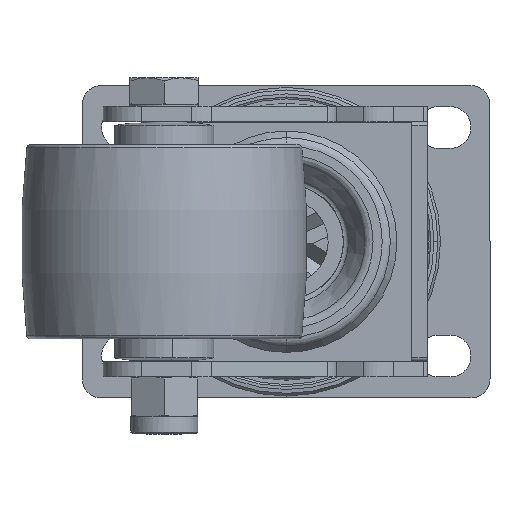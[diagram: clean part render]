
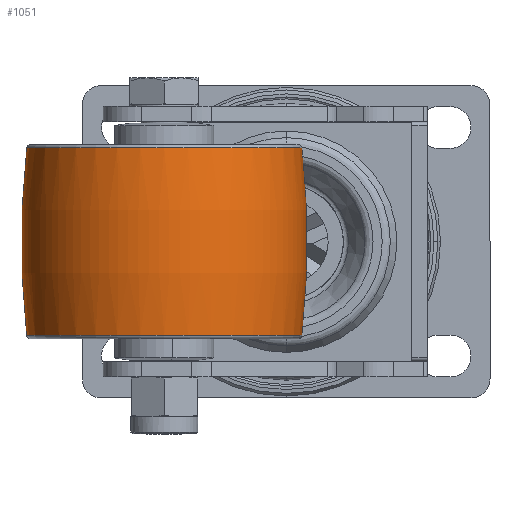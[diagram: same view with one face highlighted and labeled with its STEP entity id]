
A CAD part, front view. The second image highlights one B-rep face of the part: STEP entity #1051.
In plain terms, the highlighted toroidal (fillet/blend) face has major radius 180 mm and minor radius 217.5 mm.
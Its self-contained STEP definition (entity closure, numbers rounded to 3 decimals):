
#1051 = ADVANCED_FACE ( 'NONE', ( #1171 ), #2799, .T. ) ;
#1171 = FACE_OUTER_BOUND ( 'NONE', #23133, .T. ) ;
#1255 = DIRECTION ( 'NONE',  ( 1., 0., 0. ) ) ;
#2240 = CIRCLE ( 'NONE', #17822, 217.5 ) ;
#2799 = TOROIDAL_SURFACE ( 'NONE', #17117, -180., 217.5 ) ;
#3064 = CARTESIAN_POINT ( 'NONE',  ( 0., 0., -180. ) ) ;
#4468 = CARTESIAN_POINT ( 'NONE',  ( 0., 0., 180. ) ) ;
#4556 = DIRECTION ( 'NONE',  ( -1., 0., 0. ) ) ;
#5252 = VERTEX_POINT ( 'NONE', #25446 ) ;
#7711 = CIRCLE ( 'NONE', #8739, 36.103 ) ;
#8496 = DIRECTION ( 'NONE',  ( 0., 0., -1. ) ) ;
#8739 = AXIS2_PLACEMENT_3D ( 'NONE', #14760, #17497, #14656 ) ;
#9123 = EDGE_CURVE ( 'NONE', #30500, #21334, #22250, .T. ) ;
#9458 = EDGE_CURVE ( 'NONE', #15728, #30500, #30379, .T. ) ;
#9696 = DIRECTION ( 'NONE',  ( 0., 0., 1. ) ) ;
#10385 = ORIENTED_EDGE ( 'NONE', *, *, #9458, .T. ) ;
#14117 = CARTESIAN_POINT ( 'NONE',  ( -24.613, 0., 0. ) ) ;
#14656 = DIRECTION ( 'NONE',  ( 0., 0., 1. ) ) ;
#14760 = CARTESIAN_POINT ( 'NONE',  ( 24.613, 0., 0. ) ) ;
#15156 = ORIENTED_EDGE ( 'NONE', *, *, #25863, .F. ) ;
#15728 = VERTEX_POINT ( 'NONE', #24715 ) ;
#16022 = DIRECTION ( 'NONE',  ( 0., -1., 0. ) ) ;
#17117 = AXIS2_PLACEMENT_3D ( 'NONE', #25287, #4556, #9696 ) ;
#17497 = DIRECTION ( 'NONE',  ( -1., 0., 0. ) ) ;
#17822 = AXIS2_PLACEMENT_3D ( 'NONE', #4468, #20634, #33711 ) ;
#17914 = AXIS2_PLACEMENT_3D ( 'NONE', #3064, #16022, #8496 ) ;
#18577 = CARTESIAN_POINT ( 'NONE',  ( -24.613, 0., 36.103 ) ) ;
#20634 = DIRECTION ( 'NONE',  ( 0., 1., 0. ) ) ;
#21334 = VERTEX_POINT ( 'NONE', #28881 ) ;
#22250 = CIRCLE ( 'NONE', #33148, 36.103 ) ;
#23133 = EDGE_LOOP ( 'NONE', ( #15156, #32312, #10385, #30604 ) ) ;
#24715 = CARTESIAN_POINT ( 'NONE',  ( 24.613, 0., 36.103 ) ) ;
#25287 = CARTESIAN_POINT ( 'NONE',  ( 0., 0., 0. ) ) ;
#25446 = CARTESIAN_POINT ( 'NONE',  ( 24.613, 0., -36.103 ) ) ;
#25863 = EDGE_CURVE ( 'NONE', #5252, #21334, #2240, .T. ) ;
#28881 = CARTESIAN_POINT ( 'NONE',  ( -24.613, 0., -36.103 ) ) ;
#30222 = DIRECTION ( 'NONE',  ( 0., 0., -1. ) ) ;
#30379 = CIRCLE ( 'NONE', #17914, 217.5 ) ;
#30500 = VERTEX_POINT ( 'NONE', #18577 ) ;
#30604 = ORIENTED_EDGE ( 'NONE', *, *, #9123, .T. ) ;
#31585 = EDGE_CURVE ( 'NONE', #5252, #15728, #7711, .T. ) ;
#32312 = ORIENTED_EDGE ( 'NONE', *, *, #31585, .T. ) ;
#33148 = AXIS2_PLACEMENT_3D ( 'NONE', #14117, #1255, #30222 ) ;
#33711 = DIRECTION ( 'NONE',  ( 0., 0., 1. ) ) ;
